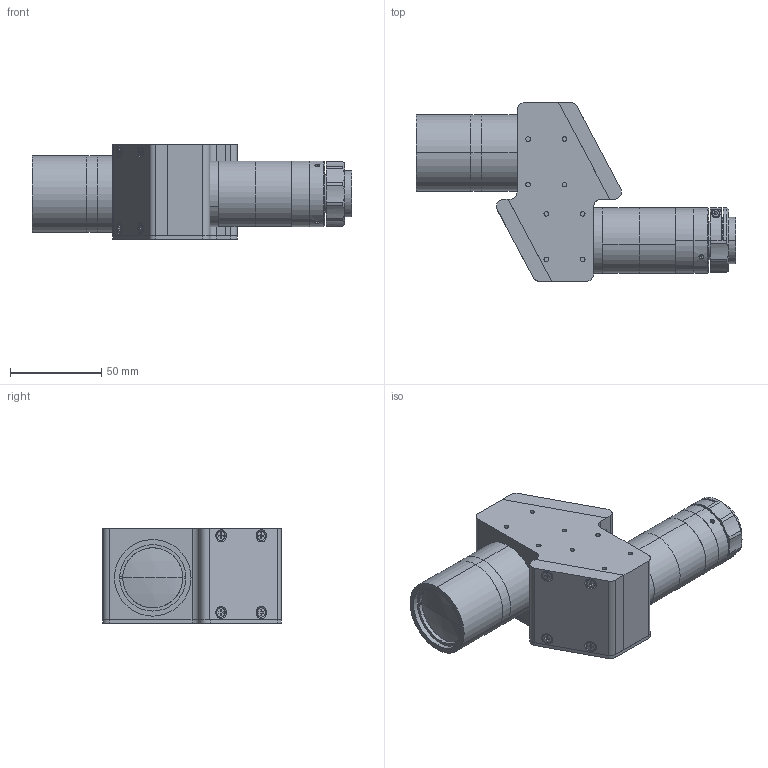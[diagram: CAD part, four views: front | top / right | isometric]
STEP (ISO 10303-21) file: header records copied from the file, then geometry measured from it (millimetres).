
FILE_DESCRIPTION (( 'STEP AP203' ), '1' );
FILE_NAME ('XF-MH08X251.STEP', '2020-08-24T07:15:25', ( 'canrill-02' ), ( '' ), 'SwSTEP 2.0', 'SolidWorks 2014', '' );
FILE_SCHEMA (( 'CONFIG_CONTROL_DESIGN' ));
Length unit declared in the file: millimetre
Products named in the file (1): XF-MH08X251
Bounding box: 175.38 x 98 x 52 mm (x, y, z)
Surface area: 47360.5 mm2 (no closed solid volume)
Topology: 0 solids, 34 shells, 416 faces, 1318 edges, 905 vertices
Faces by surface type: plane 214, cylinder 157, cone 41, sphere 2, torus 2
Entity records: 14891 total; most frequent: CARTESIAN_POINT 2959, DIRECTION 2589, ORIENTED_EDGE 2184, EDGE_CURVE 1316, VERTEX_POINT 905, AXIS2_PLACEMENT_3D 879, LINE 831, VECTOR 831
